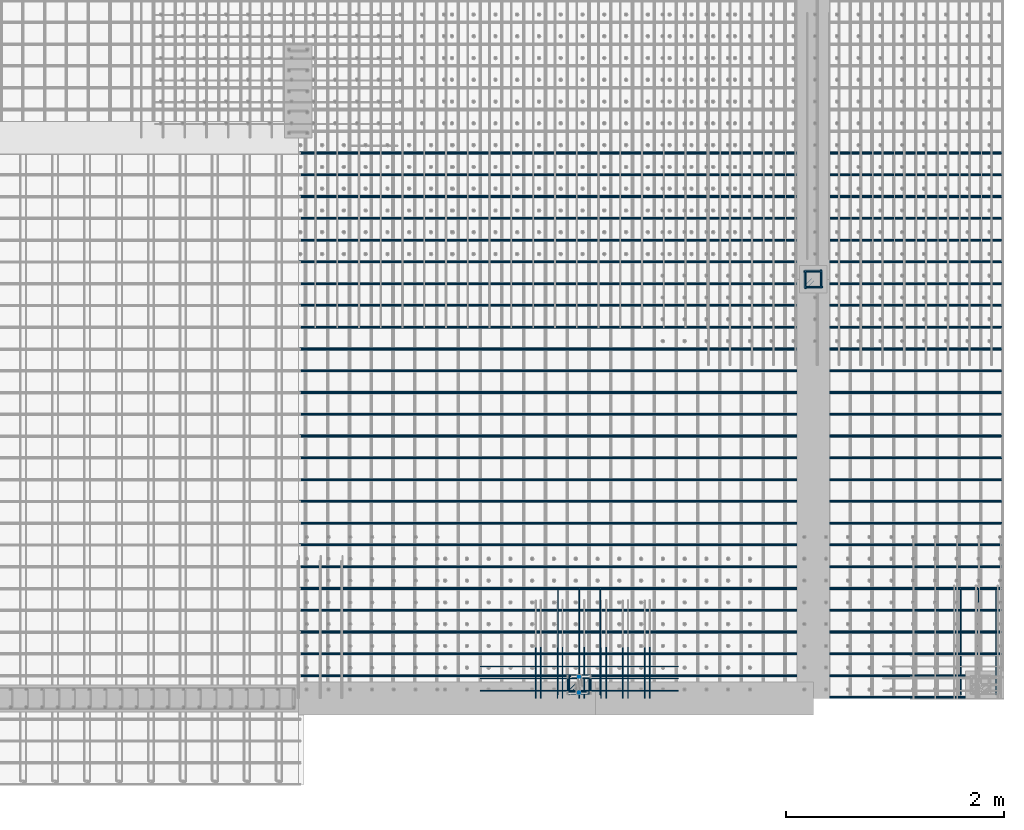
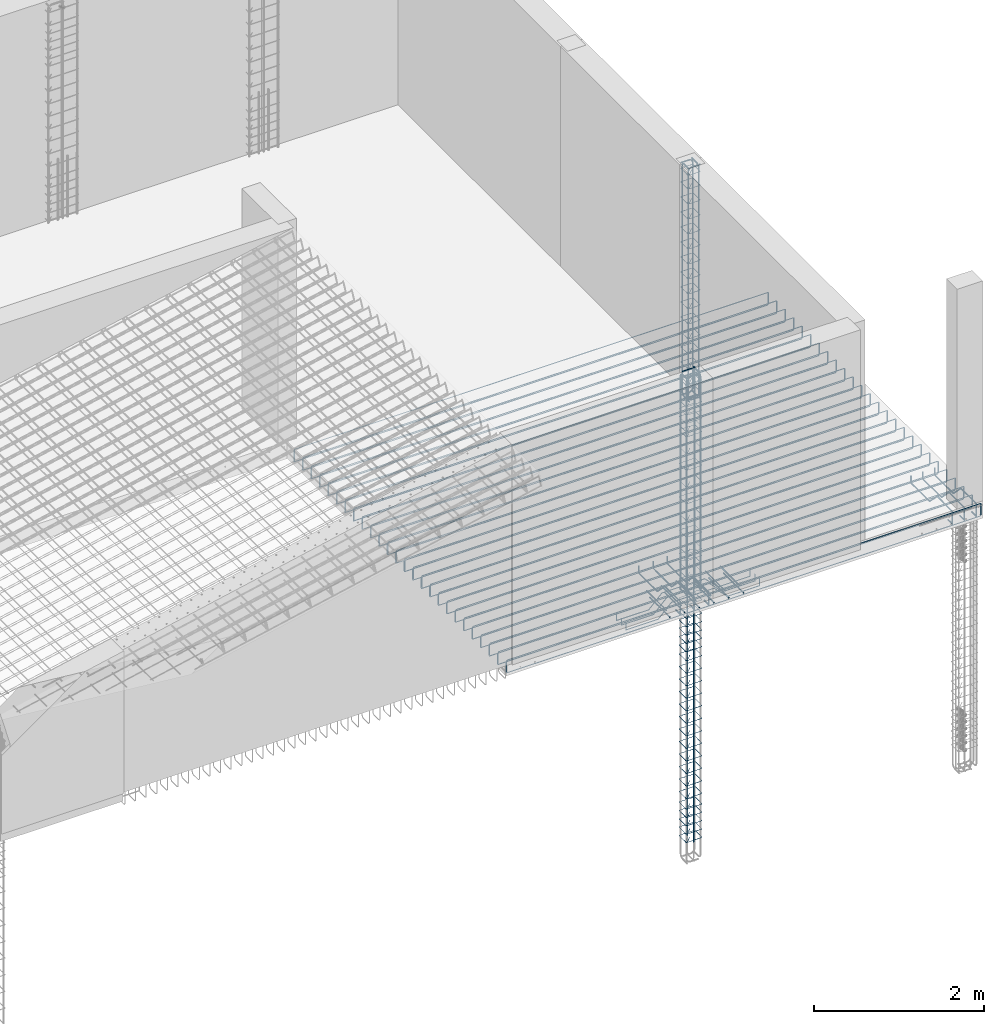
# One storey, part 9 of 17: 11 reinforcing bars.
"""IFC4 building model written with IfcOpenShell, lengths in metres."""

from ifc_helpers import new_model, entity, si_unit, frame, origin_with_axes, place, context, project, spatial, source, transform, mapped, element, save


model = new_model("IFC4")

# Units and contexts
model_context = context("Model", 3, precision=1e-05, world=origin_with_axes())
ifc_project = project(units=[si_unit("LENGTHUNIT", "METRE"), si_unit("AREAUNIT", "SQUARE_METRE"), si_unit("VOLUMEUNIT", "CUBIC_METRE"), si_unit("MASSUNIT", "GRAM", prefix="KILO"), si_unit("TIMEUNIT", "SECOND"), si_unit("PLANEANGLEUNIT", "RADIAN"), si_unit("SOLIDANGLEUNIT", "STERADIAN"), si_unit("THERMODYNAMICTEMPERATUREUNIT", "DEGREE_CELSIUS")], contexts=[model_context])

# Site, building, storey
placement_1 = place(None, origin_with_axes())
site = spatial("IfcSite", under=ifc_project, at=placement_1, Name="Italia", CompositionType="ELEMENT")
building = spatial("IfcBuilding", under=site, at=placement_1, Name="Abitazione", CompositionType="ELEMENT")
storey_placement = place(None, frame((0.0, 0.0, 3.569999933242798), z_axis=(0.0, 0.0, 1.0), x_axis=(1.0, 0.0, 0.0)))
storey = spatial("IfcBuildingStorey", under=building, at=storey_placement, Name="Storey 1", CompositionType="ELEMENT", Elevation=3.569999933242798)

# Reinforcing bars
shared_shape_1 = source(origin_with_axes(), model_context, "Body", "AdvancedSweptSolid", [
    entity("IfcSweptDiskSolid", entity("IfcIndexedPolyCurve", entity("IfcCartesianPointList3D", [[10.71, 0.988, 0.0], [10.71, 0.988, 4.45]]), [entity("IfcLineIndex", [1, 2])], False), 0.008),
])
placement_2 = place(placement_1, origin_with_axes())
reinforcing_bar_1_placement = place(placement_2, origin_with_axes())
element("IfcReinforcingBar", 1, at=reinforcing_bar_1_placement, inside=storey, BarLength=4.45, CrossSectionArea=0.00020106, NominalDiameter=0.016, context=model_context, shape_type="MappedRepresentation", body=[
    mapped(shared_shape_1, transform((-1.04904e-05, -0.146, 0.0), x_axis=(1.0, 0.0, 0.0), y_axis=(0.0, 1.0, 0.0), z_axis=(0.0, 0.0, 1.0), scale=1.0)),
    mapped(shared_shape_1, transform((0.0, 0.0, 0.0), x_axis=(1.0, 0.0, 0.0), y_axis=(0.0, 1.0, 0.0), z_axis=(0.0, 0.0, 1.0), scale=1.0)),
])
shared_shape_2 = source(origin_with_axes(), model_context, "Body", "AdvancedSweptSolid", [
    entity("IfcSweptDiskSolid", entity("IfcIndexedPolyCurve", entity("IfcCartesianPointList3D", [[10.615, 0.845, 3.57], [10.615, 0.845, 6.64], [10.6192, 0.845, 6.66105], [10.6311, 0.845, 6.67889], [10.649, 0.845, 6.69081], [10.67, 0.845, 6.695], [10.777, 0.845, 6.695]]), [entity("IfcLineIndex", [1, 2]), entity("IfcLineIndex", [2, 3]), entity("IfcLineIndex", [3, 4]), entity("IfcLineIndex", [4, 5]), entity("IfcLineIndex", [5, 6]), entity("IfcLineIndex", [6, 7])], False), 0.011),
])
reinforcing_bar_2_placement = place(placement_2, origin_with_axes())
element("IfcReinforcingBar", 2, at=reinforcing_bar_2_placement, inside=storey, BarLength=3.26284, CrossSectionArea=0.00038013, NominalDiameter=0.022, context=model_context, shape_type="MappedRepresentation", body=[
    mapped(shared_shape_2, transform((9.77, 11.6, 0.0), x_axis=(0.0, -1.0, 0.0), y_axis=(1.0, 0.0, 0.0), z_axis=(0.0, 0.0, 1.0), scale=1.0)),
    mapped(shared_shape_2, transform((0.0, 0.0, 0.0), x_axis=(1.0, 0.0, 0.0), y_axis=(0.0, 1.0, 0.0), z_axis=(0.0, 0.0, 1.0), scale=1.0)),
    mapped(shared_shape_2, transform((11.65, -9.77, 0.0), x_axis=(0.0, 1.0, 0.0), y_axis=(-1.0, 0.0, 0.0), z_axis=(0.0, 0.0, 1.0), scale=1.0)),
    mapped(shared_shape_2, transform((21.42, 1.83, 0.0), x_axis=(-1.0, 0.0, 0.0), y_axis=(0.0, -1.0, 0.0), z_axis=(0.0, 0.0, 1.0), scale=1.0)),
])
shared_shape_3 = source(origin_with_axes(), model_context, "Body", "AdvancedSweptSolid", [
    entity("IfcSweptDiskSolid", entity("IfcIndexedPolyCurve", entity("IfcCartesianPointList3D", [[10.6912, 0.901711, 0.041], [10.6234, 0.833929, 0.0402633], [10.6164, 0.831, 0.0402045], [10.611, 0.831, 0.0401633], [10.6072, 0.831761, 0.0401334], [10.6039, 0.833929, 0.0401034], [10.6018, 0.837173, 0.0400734], [10.601, 0.841, 0.0400434], [10.601, 0.989, 0.038906], [10.6018, 0.992827, 0.038876], [10.6039, 0.996071, 0.0388461], [10.6072, 0.998239, 0.0388161], [10.611, 0.999, 0.0387861], [10.809, 0.999, 0.0372645], [10.8128, 0.998239, 0.0372345], [10.8161, 0.996071, 0.0372045], [10.8182, 0.992827, 0.0371745], [10.819, 0.989, 0.0371445], [10.819, 0.841, 0.0360072], [10.8182, 0.837173, 0.0359772], [10.8161, 0.833929, 0.0359472], [10.8128, 0.831761, 0.0359172], [10.809, 0.831, 0.0358872], [10.611, 0.831, 0.0343656], [10.6072, 0.831761, 0.0343356], [10.6039, 0.833929, 0.0343057], [10.6018, 0.837173, 0.0342757], [10.601, 0.841, 0.0342457], [10.601, 0.846358, 0.0342045], [10.6039, 0.853429, 0.0341457], [10.6717, 0.921211, 0.033409]]), [entity("IfcLineIndex", [1, 2]), entity("IfcLineIndex", [2, 3]), entity("IfcLineIndex", [3, 4]), entity("IfcLineIndex", [4, 5]), entity("IfcLineIndex", [5, 6]), entity("IfcLineIndex", [6, 7]), entity("IfcLineIndex", [7, 8]), entity("IfcLineIndex", [8, 9]), entity("IfcLineIndex", [9, 10]), entity("IfcLineIndex", [10, 11]), entity("IfcLineIndex", [11, 12]), entity("IfcLineIndex", [12, 13]), entity("IfcLineIndex", [13, 14]), entity("IfcLineIndex", [14, 15]), entity("IfcLineIndex", [15, 16]), entity("IfcLineIndex", [16, 17]), entity("IfcLineIndex", [17, 18]), entity("IfcLineIndex", [18, 19]), entity("IfcLineIndex", [19, 20]), entity("IfcLineIndex", [20, 21]), entity("IfcLineIndex", [21, 22]), entity("IfcLineIndex", [22, 23]), entity("IfcLineIndex", [23, 24]), entity("IfcLineIndex", [24, 25]), entity("IfcLineIndex", [25, 26]), entity("IfcLineIndex", [26, 27]), entity("IfcLineIndex", [27, 28]), entity("IfcLineIndex", [28, 29]), entity("IfcLineIndex", [29, 30]), entity("IfcLineIndex", [30, 31])], False), 0.003),
])
reinforcing_bar_3_placement = place(placement_2, origin_with_axes())
element("IfcReinforcingBar", 3, at=reinforcing_bar_3_placement, inside=storey, BarLength=0.987803, CrossSectionArea=2.8274e-05, NominalDiameter=0.006, context=model_context, shape_type="MappedRepresentation", body=[
    mapped(shared_shape_3, transform((0.0, 0.0, 0.632119), x_axis=(1.0, 0.0, -1.21983e-05), y_axis=(0.0, 1.0, 1.29131e-05), z_axis=(1.21983e-05, -1.29131e-05, 1.0), scale=1.0)),
    mapped(shared_shape_3, transform((0.0, 0.0, 1.71212), x_axis=(1.0, 0.0, -1.21983e-05), y_axis=(0.0, 1.0, 1.29131e-05), z_axis=(1.21983e-05, -1.29131e-05, 1.0), scale=1.0)),
    mapped(shared_shape_3, transform((0.0, 0.0, 1.89212), x_axis=(1.0, 0.0, -1.21983e-05), y_axis=(0.0, 1.0, 1.29131e-05), z_axis=(1.21983e-05, -1.29131e-05, 1.0), scale=1.0)),
    mapped(shared_shape_3, transform((0.0, 0.0, 1.17212), x_axis=(1.0, 0.0, -1.21983e-05), y_axis=(0.0, 1.0, 1.29131e-05), z_axis=(1.21983e-05, -1.29131e-05, 1.0), scale=1.0)),
    mapped(shared_shape_3, transform((0.0, 0.0, 0.480119), x_axis=(1.0, 0.0, -1.21983e-05), y_axis=(0.0, 1.0, 1.29131e-05), z_axis=(1.21983e-05, -1.29131e-05, 1.0), scale=1.0)),
    mapped(shared_shape_3, transform((0.0, 0.0, 1.53212), x_axis=(1.0, 0.0, -1.21983e-05), y_axis=(0.0, 1.0, 1.29131e-05), z_axis=(1.21983e-05, -1.29131e-05, 1.0), scale=1.0)),
    mapped(shared_shape_3, transform((0.0, 0.0, 0.812119), x_axis=(1.0, 0.0, -1.21983e-05), y_axis=(0.0, 1.0, 1.29131e-05), z_axis=(1.21983e-05, -1.29131e-05, 1.0), scale=1.0)),
    mapped(shared_shape_3, transform((0.0, 0.0, 0.992119), x_axis=(1.0, 0.0, -1.21983e-05), y_axis=(0.0, 1.0, 1.29131e-05), z_axis=(1.21983e-05, -1.29131e-05, 1.0), scale=1.0)),
    mapped(shared_shape_3, transform((0.0, 0.0, 0.120009), x_axis=(1.0, 0.0, 0.0), y_axis=(0.0, 1.0, 0.0), z_axis=(0.0, 0.0, 1.0), scale=1.0)),
    mapped(shared_shape_3, transform((0.0, 0.0, 1.35212), x_axis=(1.0, 0.0, -1.21983e-05), y_axis=(0.0, 1.0, 1.29131e-05), z_axis=(1.21983e-05, -1.29131e-05, 1.0), scale=1.0)),
    mapped(shared_shape_3, transform((0.0, 0.0, 3.68984), x_axis=(1.0, 0.0, 1.65697e-05), y_axis=(0.0, 1.0, -1.58555e-05), z_axis=(-1.65697e-05, 1.58555e-05, 1.0), scale=1.0)),
    mapped(shared_shape_3, transform((0.0, 0.0, 2.61184), x_axis=(1.0, 0.0, 1.65697e-05), y_axis=(0.0, 1.0, -1.58555e-05), z_axis=(-1.65697e-05, 1.58555e-05, 1.0), scale=1.0)),
    mapped(shared_shape_3, transform((0.0, 0.0, 2.43184), x_axis=(1.0, 0.0, 1.65697e-05), y_axis=(0.0, 1.0, -1.58555e-05), z_axis=(-1.65697e-05, 1.58555e-05, 1.0), scale=1.0)),
    mapped(shared_shape_3, transform((0.0, 0.0, 2.85984), x_axis=(1.0, 0.0, 1.65697e-05), y_axis=(0.0, 1.0, -1.58555e-05), z_axis=(-1.65697e-05, 1.58555e-05, 1.0), scale=1.0)),
    mapped(shared_shape_3, transform((0.0, 0.0, 3.56984), x_axis=(1.0, 0.0, 1.65697e-05), y_axis=(0.0, 1.0, -1.58555e-05), z_axis=(-1.65697e-05, 1.58555e-05, 1.0), scale=1.0)),
    mapped(shared_shape_3, transform((0.0, 0.0, 3.21984), x_axis=(1.0, 0.0, 1.65697e-05), y_axis=(0.0, 1.0, -1.58555e-05), z_axis=(-1.65697e-05, 1.58555e-05, 1.0), scale=1.0)),
    mapped(shared_shape_3, transform((0.0, 0.0, 2.25184), x_axis=(1.0, 0.0, 1.65697e-05), y_axis=(0.0, 1.0, -1.58555e-05), z_axis=(-1.65697e-05, 1.58555e-05, 1.0), scale=1.0)),
    mapped(shared_shape_3, transform((0.0, 0.0, 2.73984), x_axis=(1.0, 0.0, 1.65697e-05), y_axis=(0.0, 1.0, -1.58555e-05), z_axis=(-1.65697e-05, 1.58555e-05, 1.0), scale=1.0)),
    mapped(shared_shape_3, transform((0.0, 0.0, 3.41284), x_axis=(1.0, 0.0, 1.65697e-05), y_axis=(0.0, 1.0, -1.58555e-05), z_axis=(-1.65697e-05, 1.58555e-05, 1.0), scale=1.0)),
    mapped(shared_shape_3, transform((0.0, 0.0, 2.97984), x_axis=(1.0, 0.0, 1.65697e-05), y_axis=(0.0, 1.0, -1.58555e-05), z_axis=(-1.65697e-05, 1.58555e-05, 1.0), scale=1.0)),
    mapped(shared_shape_3, transform((0.0, 0.0, 2.07184), x_axis=(1.0, 0.0, 1.65697e-05), y_axis=(0.0, 1.0, -1.58555e-05), z_axis=(-1.65697e-05, 1.58555e-05, 1.0), scale=1.0)),
    mapped(shared_shape_3, transform((0.0, 0.0, 3.92984), x_axis=(1.0, 0.0, 1.65697e-05), y_axis=(0.0, 1.0, -1.58555e-05), z_axis=(-1.65697e-05, 1.58555e-05, 1.0), scale=1.0)),
    mapped(shared_shape_3, transform((0.0, 0.0, 3.80984), x_axis=(1.0, 0.0, 1.65697e-05), y_axis=(0.0, 1.0, -1.58555e-05), z_axis=(-1.65697e-05, 1.58555e-05, 1.0), scale=1.0)),
    mapped(shared_shape_3, transform((0.0, 0.0, 3.09984), x_axis=(1.0, 0.0, 1.65697e-05), y_axis=(0.0, 1.0, -1.58555e-05), z_axis=(-1.65697e-05, 1.58555e-05, 1.0), scale=1.0)),
    mapped(shared_shape_3, transform((0.0, 0.0, 0.359973), x_axis=(1.0, 0.0, 0.0), y_axis=(0.0, 1.0, 0.0), z_axis=(0.0, 0.0, 1.0), scale=1.0)),
    mapped(shared_shape_3, transform((0.0, 0.0, 0.239973), x_axis=(1.0, 0.0, 0.0), y_axis=(0.0, 1.0, 0.0), z_axis=(0.0, 0.0, 1.0), scale=1.0)),
    mapped(shared_shape_3, transform((0.0, 0.0, 0.0), x_axis=(1.0, 0.0, 0.0), y_axis=(0.0, 1.0, 0.0), z_axis=(0.0, 0.0, 1.0), scale=1.0)),
    mapped(shared_shape_3, transform((0.0, 0.0, 4.04923), x_axis=(1.0, 0.0, 7.90976e-05), y_axis=(0.0, 1.0, -8.54169e-05), z_axis=(-7.90975e-05, 8.5417e-05, 1.0), scale=1.0)),
    mapped(shared_shape_3, transform((0.0, 0.0, 4.14623), x_axis=(1.0, 0.0, 7.90976e-05), y_axis=(0.0, 1.0, -8.54169e-05), z_axis=(-7.90975e-05, 8.5417e-05, 1.0), scale=1.0)),
    mapped(shared_shape_3, transform((0.0, 0.0, 4.38623), x_axis=(1.0, 0.0, 7.90976e-05), y_axis=(0.0, 1.0, -8.54169e-05), z_axis=(-7.90975e-05, 8.5417e-05, 1.0), scale=1.0)),
    mapped(shared_shape_3, transform((0.0, 0.0, 4.62623), x_axis=(1.0, 0.0, 7.90976e-05), y_axis=(0.0, 1.0, -8.54169e-05), z_axis=(-7.90975e-05, 8.5417e-05, 1.0), scale=1.0)),
    mapped(shared_shape_3, transform((0.0, 0.0, 4.86623), x_axis=(1.0, 0.0, 7.90976e-05), y_axis=(0.0, 1.0, -8.54169e-05), z_axis=(-7.90975e-05, 8.5417e-05, 1.0), scale=1.0)),
    mapped(shared_shape_3, transform((0.0, 0.0, 5.10623), x_axis=(1.0, 0.0, 7.90976e-05), y_axis=(0.0, 1.0, -8.54169e-05), z_axis=(-7.90975e-05, 8.5417e-05, 1.0), scale=1.0)),
    mapped(shared_shape_3, transform((0.0, 0.0, 5.34623), x_axis=(1.0, 0.0, 7.90976e-05), y_axis=(0.0, 1.0, -8.54169e-05), z_axis=(-7.90975e-05, 8.5417e-05, 1.0), scale=1.0)),
    mapped(shared_shape_3, transform((0.0, 0.0, 5.58623), x_axis=(1.0, 0.0, 7.90976e-05), y_axis=(0.0, 1.0, -8.54169e-05), z_axis=(-7.90975e-05, 8.5417e-05, 1.0), scale=1.0)),
    mapped(shared_shape_3, transform((0.0, 0.0, 5.82623), x_axis=(1.0, 0.0, 7.90976e-05), y_axis=(0.0, 1.0, -8.54169e-05), z_axis=(-7.90975e-05, 8.5417e-05, 1.0), scale=1.0)),
    mapped(shared_shape_3, transform((0.0, 0.0, 5.89923), x_axis=(1.0, 0.0, 7.90976e-05), y_axis=(0.0, 1.0, -8.54169e-05), z_axis=(-7.90975e-05, 8.5417e-05, 1.0), scale=1.0)),
    mapped(shared_shape_3, transform((0.0, 0.0, 6.01923), x_axis=(1.0, 0.0, 7.90976e-05), y_axis=(0.0, 1.0, -8.54169e-05), z_axis=(-7.90975e-05, 8.5417e-05, 1.0), scale=1.0)),
    mapped(shared_shape_3, transform((0.0, 0.0, 6.13923), x_axis=(1.0, 0.0, 7.90976e-05), y_axis=(0.0, 1.0, -8.54169e-05), z_axis=(-7.90975e-05, 8.5417e-05, 1.0), scale=1.0)),
    mapped(shared_shape_3, transform((0.0, 0.0, 6.25923), x_axis=(1.0, 0.0, 7.90976e-05), y_axis=(0.0, 1.0, -8.54169e-05), z_axis=(-7.90975e-05, 8.5417e-05, 1.0), scale=1.0)),
    mapped(shared_shape_3, transform((0.0, 0.0, 6.37923), x_axis=(1.0, 0.0, 7.90976e-05), y_axis=(0.0, 1.0, -8.54169e-05), z_axis=(-7.90975e-05, 8.5417e-05, 1.0), scale=1.0)),
    mapped(shared_shape_3, transform((0.0, 0.0, 6.56623), x_axis=(1.0, 0.0, 7.90976e-05), y_axis=(0.0, 1.0, -8.54169e-05), z_axis=(-7.90975e-05, 8.5417e-05, 1.0), scale=1.0)),
])
shared_shape_4 = source(origin_with_axes(), model_context, "Body", "AdvancedSweptSolid", [
    entity("IfcSweptDiskSolid", entity("IfcIndexedPolyCurve", entity("IfcCartesianPointList3D", [[12.951, 4.569, 3.355], [12.839, 4.569, 3.355], [12.8199, 4.569, 3.35881], [12.8036, 4.569, 3.36964], [12.7928, 4.569, 3.38587], [12.789, 4.569, 3.405], [12.789, 4.569, 4.3875]]), [entity("IfcLineIndex", [1, 2]), entity("IfcLineIndex", [2, 3]), entity("IfcLineIndex", [3, 4]), entity("IfcLineIndex", [4, 5]), entity("IfcLineIndex", [5, 6]), entity("IfcLineIndex", [6, 7])], False), 0.01),
])
reinforcing_bar_4_placement = place(placement_2, origin_with_axes())
element("IfcReinforcingBar", 4, at=reinforcing_bar_4_placement, inside=storey, BarLength=1.17254, CrossSectionArea=0.00031416, NominalDiameter=0.02, context=model_context, shape_type="MappedRepresentation", body=[
    mapped(shared_shape_4, transform((8.22, 17.5, 0.0), x_axis=(0.0, -1.0, 0.0), y_axis=(1.0, 0.0, 0.0), z_axis=(0.0, 0.0, 1.0), scale=1.0)),
    mapped(shared_shape_4, transform((0.0, 0.0, 0.0), x_axis=(1.0, 0.0, 0.0), y_axis=(0.0, 1.0, 0.0), z_axis=(0.0, 0.0, 1.0), scale=1.0)),
    mapped(shared_shape_4, transform((17.5, -8.22, 0.0), x_axis=(0.0, 1.0, 0.0), y_axis=(-1.0, 0.0, 0.0), z_axis=(0.0, 0.0, 1.0), scale=1.0)),
    mapped(shared_shape_4, transform((25.72, 9.28, 0.0), x_axis=(-1.0, 0.0, 0.0), y_axis=(0.0, -1.0, 0.0), z_axis=(0.0, 0.0, 1.0), scale=1.0)),
])
shared_shape_5 = source(origin_with_axes(), model_context, "Body", "AdvancedSweptSolid", [
    entity("IfcSweptDiskSolid", entity("IfcIndexedPolyCurve", entity("IfcCartesianPointList3D", [[12.789, 4.569, 3.57], [12.789, 4.569, 6.645], [12.7928, 4.569, 6.66413], [12.8036, 4.569, 6.68036], [12.8199, 4.569, 6.69119], [12.839, 4.569, 6.695], [12.951, 4.569, 6.695]]), [entity("IfcLineIndex", [1, 2]), entity("IfcLineIndex", [2, 3]), entity("IfcLineIndex", [3, 4]), entity("IfcLineIndex", [4, 5]), entity("IfcLineIndex", [5, 6]), entity("IfcLineIndex", [6, 7])], False), 0.01),
])
reinforcing_bar_5_placement = place(placement_2, origin_with_axes())
element("IfcReinforcingBar", 5, at=reinforcing_bar_5_placement, inside=storey, BarLength=3.26504, CrossSectionArea=0.00031416, NominalDiameter=0.02, context=model_context, shape_type="MappedRepresentation", body=[
    mapped(shared_shape_5, transform((8.22, 17.5, 0.0), x_axis=(0.0, -1.0, 0.0), y_axis=(1.0, 0.0, 0.0), z_axis=(0.0, 0.0, 1.0), scale=1.0)),
    mapped(shared_shape_5, transform((0.0, 0.0, 0.0), x_axis=(1.0, 0.0, 0.0), y_axis=(0.0, 1.0, 0.0), z_axis=(0.0, 0.0, 1.0), scale=1.0)),
    mapped(shared_shape_5, transform((17.5, -8.22, 0.0), x_axis=(0.0, 1.0, 0.0), y_axis=(-1.0, 0.0, 0.0), z_axis=(0.0, 0.0, 1.0), scale=1.0)),
    mapped(shared_shape_5, transform((25.72, 9.28, 0.0), x_axis=(-1.0, 0.0, 0.0), y_axis=(0.0, -1.0, 0.0), z_axis=(0.0, 0.0, 1.0), scale=1.0)),
])
shared_shape_6 = source(origin_with_axes(), model_context, "Body", "AdvancedSweptSolid", [
    entity("IfcSweptDiskSolid", entity("IfcIndexedPolyCurve", entity("IfcCartesianPointList3D", [[12.8667, 4.62571, 3.613], [12.7989, 4.55793, 3.61189], [12.7919, 4.555, 3.6118], [12.785, 4.555, 3.61172], [12.7812, 4.55576, 3.61168], [12.7779, 4.55793, 3.61163], [12.7758, 4.56117, 3.61159], [12.775, 4.565, 3.61154], [12.775, 4.715, 3.60981], [12.7758, 4.71883, 3.60976], [12.7779, 4.72207, 3.60972], [12.7812, 4.72424, 3.60967], [12.785, 4.725, 3.60963], [12.935, 4.725, 3.60789], [12.9388, 4.72424, 3.60785], [12.9421, 4.72207, 3.6078], [12.9442, 4.71883, 3.60776], [12.945, 4.715, 3.60771], [12.945, 4.565, 3.60598], [12.9442, 4.56117, 3.60593], [12.9421, 4.55793, 3.60589], [12.9388, 4.55576, 3.60584], [12.935, 4.555, 3.6058], [12.785, 4.555, 3.60406], [12.7812, 4.55576, 3.60402], [12.7779, 4.55793, 3.60397], [12.7758, 4.56117, 3.60393], [12.775, 4.565, 3.60388], [12.775, 4.57186, 3.6038], [12.7779, 4.57893, 3.60371], [12.8457, 4.64671, 3.60261]]), [entity("IfcLineIndex", [1, 2]), entity("IfcLineIndex", [2, 3]), entity("IfcLineIndex", [3, 4]), entity("IfcLineIndex", [4, 5]), entity("IfcLineIndex", [5, 6]), entity("IfcLineIndex", [6, 7]), entity("IfcLineIndex", [7, 8]), entity("IfcLineIndex", [8, 9]), entity("IfcLineIndex", [9, 10]), entity("IfcLineIndex", [10, 11]), entity("IfcLineIndex", [11, 12]), entity("IfcLineIndex", [12, 13]), entity("IfcLineIndex", [13, 14]), entity("IfcLineIndex", [14, 15]), entity("IfcLineIndex", [15, 16]), entity("IfcLineIndex", [16, 17]), entity("IfcLineIndex", [17, 18]), entity("IfcLineIndex", [18, 19]), entity("IfcLineIndex", [19, 20]), entity("IfcLineIndex", [20, 21]), entity("IfcLineIndex", [21, 22]), entity("IfcLineIndex", [22, 23]), entity("IfcLineIndex", [23, 24]), entity("IfcLineIndex", [24, 25]), entity("IfcLineIndex", [25, 26]), entity("IfcLineIndex", [26, 27]), entity("IfcLineIndex", [27, 28]), entity("IfcLineIndex", [28, 29]), entity("IfcLineIndex", [29, 30]), entity("IfcLineIndex", [30, 31])], False), 0.004),
])
reinforcing_bar_6_placement = place(placement_2, origin_with_axes())
element("IfcReinforcingBar", 6, at=reinforcing_bar_6_placement, inside=storey, BarLength=0.898838, CrossSectionArea=5.0265e-05, NominalDiameter=0.008, context=model_context, shape_type="MappedRepresentation", body=[
    mapped(shared_shape_6, transform((7.72476e-05, -7.39098e-05, 1.93828), x_axis=(1.0, 0.0, 2.16716e-05), y_axis=(0.0, 1.0, -2.16626e-05), z_axis=(-2.16716e-05, 2.16626e-05, 1.0), scale=1.0)),
    mapped(shared_shape_6, transform((7.72476e-05, -7.39098e-05, 1.7229), x_axis=(1.0, 0.0, 2.16716e-05), y_axis=(0.0, 1.0, -2.16626e-05), z_axis=(-2.16716e-05, 2.16626e-05, 1.0), scale=1.0)),
    mapped(shared_shape_6, transform((7.72476e-05, -7.39098e-05, 2.99582), x_axis=(1.0, 0.0, 2.16716e-05), y_axis=(0.0, 1.0, -2.16626e-05), z_axis=(-2.16716e-05, 2.16626e-05, 1.0), scale=1.0)),
    mapped(shared_shape_6, transform((7.72476e-05, -7.39098e-05, 2.58444), x_axis=(1.0, 0.0, 2.16716e-05), y_axis=(0.0, 1.0, -2.16626e-05), z_axis=(-2.16716e-05, 2.16626e-05, 1.0), scale=1.0)),
    mapped(shared_shape_6, transform((7.72476e-05, -7.39098e-05, 2.36905), x_axis=(1.0, 0.0, 2.16716e-05), y_axis=(0.0, 1.0, -2.16626e-05), z_axis=(-2.16716e-05, 2.16626e-05, 1.0), scale=1.0)),
    mapped(shared_shape_6, transform((7.72476e-05, -7.39098e-05, 2.15367), x_axis=(1.0, 0.0, 2.16716e-05), y_axis=(0.0, 1.0, -2.16626e-05), z_axis=(-2.16716e-05, 2.16626e-05, 1.0), scale=1.0)),
    mapped(shared_shape_6, transform((0.0, 0.0, 0.215384), x_axis=(1.0, 0.0, 0.0), y_axis=(0.0, 1.0, 0.0), z_axis=(0.0, 0.0, 1.0), scale=1.0)),
    mapped(shared_shape_6, transform((7.72476e-05, -7.39098e-05, 1.50751), x_axis=(1.0, 0.0, 2.16716e-05), y_axis=(0.0, 1.0, -2.16626e-05), z_axis=(-2.16716e-05, 2.16626e-05, 1.0), scale=1.0)),
    mapped(shared_shape_6, transform((7.72476e-05, -7.39098e-05, 2.79982), x_axis=(1.0, 0.0, 2.16716e-05), y_axis=(0.0, 1.0, -2.16626e-05), z_axis=(-2.16716e-05, 2.16626e-05, 1.0), scale=1.0)),
    mapped(shared_shape_6, transform((7.72476e-05, -7.39098e-05, 0.86136), x_axis=(1.0, 0.0, 2.16716e-05), y_axis=(0.0, 1.0, -2.16626e-05), z_axis=(-2.16716e-05, 2.16626e-05, 1.0), scale=1.0)),
    mapped(shared_shape_6, transform((7.72476e-05, -7.39098e-05, 0.645975), x_axis=(1.0, 0.0, 2.16716e-05), y_axis=(0.0, 1.0, -2.16626e-05), z_axis=(-2.16716e-05, 2.16626e-05, 1.0), scale=1.0)),
    mapped(shared_shape_6, transform((7.72476e-05, -7.39098e-05, 0.430591), x_axis=(1.0, 0.0, 2.16716e-05), y_axis=(0.0, 1.0, -2.16626e-05), z_axis=(-2.16716e-05, 2.16626e-05, 1.0), scale=1.0)),
    mapped(shared_shape_6, transform((0.0, 0.0, 0.0), x_axis=(1.0, 0.0, 0.0), y_axis=(0.0, 1.0, 0.0), z_axis=(0.0, 0.0, 1.0), scale=1.0)),
    mapped(shared_shape_6, transform((7.72476e-05, -7.39098e-05, 1.29213), x_axis=(1.0, 0.0, 2.16716e-05), y_axis=(0.0, 1.0, -2.16626e-05), z_axis=(-2.16716e-05, 2.16626e-05, 1.0), scale=1.0)),
    mapped(shared_shape_6, transform((7.72476e-05, -7.39098e-05, 1.07674), x_axis=(1.0, 0.0, 2.16716e-05), y_axis=(0.0, 1.0, -2.16626e-05), z_axis=(-2.16716e-05, 2.16626e-05, 1.0), scale=1.0)),
])
shared_shape_7 = source(origin_with_axes(), model_context, "Body", "AdvancedSweptSolid", [
    entity("IfcSweptDiskSolid", entity("IfcIndexedPolyCurve", entity("IfcCartesianPointList3D", [[8.142, 0.794, 3.374], [8.142, 0.794, 3.53], [8.14276, 0.794, 3.53383], [8.14493, 0.794, 3.53707], [8.14817, 0.794, 3.53924], [8.152, 0.794, 3.54], [14.576, 0.794, 3.54], [14.5798, 0.794, 3.53924], [14.5831, 0.794, 3.53707], [14.5852, 0.794, 3.53383], [14.586, 0.794, 3.53], [14.586, 0.794, 3.374]]), [entity("IfcLineIndex", [1, 2]), entity("IfcLineIndex", [2, 3]), entity("IfcLineIndex", [3, 4]), entity("IfcLineIndex", [4, 5]), entity("IfcLineIndex", [5, 6]), entity("IfcLineIndex", [6, 7]), entity("IfcLineIndex", [7, 8]), entity("IfcLineIndex", [8, 9]), entity("IfcLineIndex", [9, 10]), entity("IfcLineIndex", [10, 11]), entity("IfcLineIndex", [11, 12])], False), 0.006),
])
reinforcing_bar_7_placement = place(placement_2, origin_with_axes())
element("IfcReinforcingBar", 7, at=reinforcing_bar_7_placement, inside=storey, BarLength=6.76721, CrossSectionArea=0.0001131, NominalDiameter=0.012, context=model_context, shape_type="MappedRepresentation", body=[
    mapped(shared_shape_7, transform((0.0, 3.4, 6.89), x_axis=(1.0, 0.0, 0.0), y_axis=(0.0, -1.0, 0.0), z_axis=(0.0, 0.0, -1.0), scale=1.0)),
    mapped(shared_shape_7, transform((0.0, 3.8, 6.89), x_axis=(1.0, 0.0, 0.0), y_axis=(0.0, -1.0, 0.0), z_axis=(0.0, 0.0, -1.0), scale=1.0)),
    mapped(shared_shape_7, transform((0.0, 3.6, 6.89), x_axis=(1.0, 0.0, 0.0), y_axis=(0.0, -1.0, 0.0), z_axis=(0.0, 0.0, -1.0), scale=1.0)),
    mapped(shared_shape_7, transform((0.0, 4.0, 6.89), x_axis=(1.0, 0.0, 0.0), y_axis=(0.0, -1.0, 0.0), z_axis=(0.0, 0.0, -1.0), scale=1.0)),
    mapped(shared_shape_7, transform((0.0, 3.2, 6.89), x_axis=(1.0, 0.0, 0.0), y_axis=(0.0, -1.0, 0.0), z_axis=(0.0, 0.0, -1.0), scale=1.0)),
    mapped(shared_shape_7, transform((0.0, 3.0, 6.89), x_axis=(1.0, 0.0, 0.0), y_axis=(0.0, -1.0, 0.0), z_axis=(0.0, 0.0, -1.0), scale=1.0)),
    mapped(shared_shape_7, transform((0.0, 2.2, 6.89), x_axis=(1.0, 0.0, 0.0), y_axis=(0.0, -1.0, 0.0), z_axis=(0.0, 0.0, -1.0), scale=1.0)),
    mapped(shared_shape_7, transform((0.0, 2.6, 6.89), x_axis=(1.0, 0.0, 0.0), y_axis=(0.0, -1.0, 0.0), z_axis=(0.0, 0.0, -1.0), scale=1.0)),
    mapped(shared_shape_7, transform((0.0, 2.4, 6.89), x_axis=(1.0, 0.0, 0.0), y_axis=(0.0, -1.0, 0.0), z_axis=(0.0, 0.0, -1.0), scale=1.0)),
    mapped(shared_shape_7, transform((0.0, 2.8, 6.89), x_axis=(1.0, 0.0, 0.0), y_axis=(0.0, -1.0, 0.0), z_axis=(0.0, 0.0, -1.0), scale=1.0)),
    mapped(shared_shape_7, transform((0.0, 2.0, 6.89), x_axis=(1.0, 0.0, 0.0), y_axis=(0.0, -1.0, 0.0), z_axis=(0.0, 0.0, -1.0), scale=1.0)),
    mapped(shared_shape_7, transform((0.0, 1.8, 6.89), x_axis=(1.0, 0.0, 0.0), y_axis=(0.0, -1.0, 0.0), z_axis=(0.0, 0.0, -1.0), scale=1.0)),
    mapped(shared_shape_7, transform((0.0, 6.2, 6.89), x_axis=(1.0, 0.0, 0.0), y_axis=(0.0, -1.0, 0.0), z_axis=(0.0, 0.0, -1.0), scale=1.0)),
    mapped(shared_shape_7, transform((0.0, 6.6, 6.89), x_axis=(1.0, 0.0, 0.0), y_axis=(0.0, -1.0, 0.0), z_axis=(0.0, 0.0, -1.0), scale=1.0)),
    mapped(shared_shape_7, transform((0.0, 6.4, 6.89), x_axis=(1.0, 0.0, 0.0), y_axis=(0.0, -1.0, 0.0), z_axis=(0.0, 0.0, -1.0), scale=1.0)),
    mapped(shared_shape_7, transform((0.0, 1.6, 6.89), x_axis=(1.0, 0.0, 0.0), y_axis=(0.0, -1.0, 0.0), z_axis=(0.0, 0.0, -1.0), scale=1.0)),
    mapped(shared_shape_7, transform((0.0, 6.0, 6.89), x_axis=(1.0, 0.0, 0.0), y_axis=(0.0, -1.0, 0.0), z_axis=(0.0, 0.0, -1.0), scale=1.0)),
    mapped(shared_shape_7, transform((0.0, 5.8, 6.89), x_axis=(1.0, 0.0, 0.0), y_axis=(0.0, -1.0, 0.0), z_axis=(0.0, 0.0, -1.0), scale=1.0)),
    mapped(shared_shape_7, transform((0.0, 5.0, 6.89), x_axis=(1.0, 0.0, 0.0), y_axis=(0.0, -1.0, 0.0), z_axis=(0.0, 0.0, -1.0), scale=1.0)),
    mapped(shared_shape_7, transform((0.0, 5.4, 6.89), x_axis=(1.0, 0.0, 0.0), y_axis=(0.0, -1.0, 0.0), z_axis=(0.0, 0.0, -1.0), scale=1.0)),
    mapped(shared_shape_7, transform((0.0, 5.2, 6.89), x_axis=(1.0, 0.0, 0.0), y_axis=(0.0, -1.0, 0.0), z_axis=(0.0, 0.0, -1.0), scale=1.0)),
    mapped(shared_shape_7, transform((0.0, 5.6, 6.89), x_axis=(1.0, 0.0, 0.0), y_axis=(0.0, -1.0, 0.0), z_axis=(0.0, 0.0, -1.0), scale=1.0)),
    mapped(shared_shape_7, transform((0.0, 4.8, 6.89), x_axis=(1.0, 0.0, 0.0), y_axis=(0.0, -1.0, 0.0), z_axis=(0.0, 0.0, -1.0), scale=1.0)),
    mapped(shared_shape_7, transform((0.0, 4.6, 6.89), x_axis=(1.0, 0.0, 0.0), y_axis=(0.0, -1.0, 0.0), z_axis=(0.0, 0.0, -1.0), scale=1.0)),
    mapped(shared_shape_7, transform((0.0, 2.2, 0.0), x_axis=(1.0, 0.0, 0.0), y_axis=(0.0, 1.0, 0.0), z_axis=(0.0, 0.0, 1.0), scale=1.0)),
    mapped(shared_shape_7, transform((0.0, 4.2, 6.89), x_axis=(1.0, 0.0, 0.0), y_axis=(0.0, -1.0, 0.0), z_axis=(0.0, 0.0, -1.0), scale=1.0)),
    mapped(shared_shape_7, transform((0.0, 2.4, 0.0), x_axis=(1.0, 0.0, 0.0), y_axis=(0.0, 1.0, 0.0), z_axis=(0.0, 0.0, 1.0), scale=1.0)),
    mapped(shared_shape_7, transform((0.0, 4.4, 6.89), x_axis=(1.0, 0.0, 0.0), y_axis=(0.0, -1.0, 0.0), z_axis=(0.0, 0.0, -1.0), scale=1.0)),
    mapped(shared_shape_7, transform((0.0, 2.0, 0.0), x_axis=(1.0, 0.0, 0.0), y_axis=(0.0, 1.0, 0.0), z_axis=(0.0, 0.0, 1.0), scale=1.0)),
    mapped(shared_shape_7, transform((0.0, 1.8, 0.0), x_axis=(1.0, 0.0, 0.0), y_axis=(0.0, 1.0, 0.0), z_axis=(0.0, 0.0, 1.0), scale=1.0)),
    mapped(shared_shape_7, transform((0.0, 1.0, 0.0), x_axis=(1.0, 0.0, 0.0), y_axis=(0.0, 1.0, 0.0), z_axis=(0.0, 0.0, 1.0), scale=1.0)),
    mapped(shared_shape_7, transform((0.0, 1.4, 0.0), x_axis=(1.0, 0.0, 0.0), y_axis=(0.0, 1.0, 0.0), z_axis=(0.0, 0.0, 1.0), scale=1.0)),
    mapped(shared_shape_7, transform((0.0, 1.2, 0.0), x_axis=(1.0, 0.0, 0.0), y_axis=(0.0, 1.0, 0.0), z_axis=(0.0, 0.0, 1.0), scale=1.0)),
    mapped(shared_shape_7, transform((0.0, 1.6, 0.0), x_axis=(1.0, 0.0, 0.0), y_axis=(0.0, 1.0, 0.0), z_axis=(0.0, 0.0, 1.0), scale=1.0)),
    mapped(shared_shape_7, transform((0.0, 0.8, 0.0), x_axis=(1.0, 0.0, 0.0), y_axis=(0.0, 1.0, 0.0), z_axis=(0.0, 0.0, 1.0), scale=1.0)),
    mapped(shared_shape_7, transform((0.0, 0.6, 0.0), x_axis=(1.0, 0.0, 0.0), y_axis=(0.0, 1.0, 0.0), z_axis=(0.0, 0.0, 1.0), scale=1.0)),
    mapped(shared_shape_7, transform((0.0, 5.0, 0.0), x_axis=(1.0, 0.0, 0.0), y_axis=(0.0, 1.0, 0.0), z_axis=(0.0, 0.0, 1.0), scale=1.0)),
    mapped(shared_shape_7, transform((0.0, 0.2, 0.0), x_axis=(1.0, 0.0, 0.0), y_axis=(0.0, 1.0, 0.0), z_axis=(0.0, 0.0, 1.0), scale=1.0)),
    mapped(shared_shape_7, transform((0.0, 0.0, 0.0), x_axis=(1.0, 0.0, 0.0), y_axis=(0.0, 1.0, 0.0), z_axis=(0.0, 0.0, 1.0), scale=1.0)),
    mapped(shared_shape_7, transform((0.0, 0.4, 0.0), x_axis=(1.0, 0.0, 0.0), y_axis=(0.0, 1.0, 0.0), z_axis=(0.0, 0.0, 1.0), scale=1.0)),
    mapped(shared_shape_7, transform((0.0, 4.8, 0.0), x_axis=(1.0, 0.0, 0.0), y_axis=(0.0, 1.0, 0.0), z_axis=(0.0, 0.0, 1.0), scale=1.0)),
    mapped(shared_shape_7, transform((0.0, 4.6, 0.0), x_axis=(1.0, 0.0, 0.0), y_axis=(0.0, 1.0, 0.0), z_axis=(0.0, 0.0, 1.0), scale=1.0)),
    mapped(shared_shape_7, transform((0.0, 3.8, 0.0), x_axis=(1.0, 0.0, 0.0), y_axis=(0.0, 1.0, 0.0), z_axis=(0.0, 0.0, 1.0), scale=1.0)),
    mapped(shared_shape_7, transform((0.0, 4.2, 0.0), x_axis=(1.0, 0.0, 0.0), y_axis=(0.0, 1.0, 0.0), z_axis=(0.0, 0.0, 1.0), scale=1.0)),
    mapped(shared_shape_7, transform((0.0, 4.0, 0.0), x_axis=(1.0, 0.0, 0.0), y_axis=(0.0, 1.0, 0.0), z_axis=(0.0, 0.0, 1.0), scale=1.0)),
    mapped(shared_shape_7, transform((0.0, 4.4, 0.0), x_axis=(1.0, 0.0, 0.0), y_axis=(0.0, 1.0, 0.0), z_axis=(0.0, 0.0, 1.0), scale=1.0)),
    mapped(shared_shape_7, transform((0.0, 3.6, 0.0), x_axis=(1.0, 0.0, 0.0), y_axis=(0.0, 1.0, 0.0), z_axis=(0.0, 0.0, 1.0), scale=1.0)),
    mapped(shared_shape_7, transform((0.0, 3.4, 0.0), x_axis=(1.0, 0.0, 0.0), y_axis=(0.0, 1.0, 0.0), z_axis=(0.0, 0.0, 1.0), scale=1.0)),
    mapped(shared_shape_7, transform((0.0, 2.6, 0.0), x_axis=(1.0, 0.0, 0.0), y_axis=(0.0, 1.0, 0.0), z_axis=(0.0, 0.0, 1.0), scale=1.0)),
    mapped(shared_shape_7, transform((0.0, 3.0, 0.0), x_axis=(1.0, 0.0, 0.0), y_axis=(0.0, 1.0, 0.0), z_axis=(0.0, 0.0, 1.0), scale=1.0)),
    mapped(shared_shape_7, transform((0.0, 2.8, 0.0), x_axis=(1.0, 0.0, 0.0), y_axis=(0.0, 1.0, 0.0), z_axis=(0.0, 0.0, 1.0), scale=1.0)),
    mapped(shared_shape_7, transform((0.0, 3.2, 0.0), x_axis=(1.0, 0.0, 0.0), y_axis=(0.0, 1.0, 0.0), z_axis=(0.0, 0.0, 1.0), scale=1.0)),
])
shared_shape_8 = source(origin_with_axes(), model_context, "Body", "AdvancedSweptSolid", [
    entity("IfcSweptDiskSolid", entity("IfcIndexedPolyCurve", entity("IfcCartesianPointList3D", [[10.3112, 0.79, 3.5], [10.3112, 1.25734, 3.5]]), [entity("IfcLineIndex", [1, 2])], False), 0.006),
])
reinforcing_bar_8_placement = place(placement_2, origin_with_axes())
element("IfcReinforcingBar", 8, at=reinforcing_bar_8_placement, inside=storey, BarLength=0.467344, CrossSectionArea=0.0001131, NominalDiameter=0.012, context=model_context, shape_type="MappedRepresentation", body=[
    mapped(shared_shape_8, transform((0.4, 0.0, 0.0), x_axis=(1.0, 0.0, 0.0), y_axis=(0.0, 1.0, 0.0), z_axis=(0.0, 0.0, 1.0), scale=1.0)),
    mapped(shared_shape_8, transform((0.2, 0.0, 0.0), x_axis=(1.0, 0.0, 0.0), y_axis=(0.0, 1.0, 0.0), z_axis=(0.0, 0.0, 1.0), scale=1.0)),
    mapped(shared_shape_8, transform((0.0, 0.0, 0.0), x_axis=(1.0, 0.0, 0.0), y_axis=(0.0, 1.0, 0.0), z_axis=(0.0, 0.0, 1.0), scale=1.0)),
    mapped(shared_shape_8, transform((0.999999, 0.0, 0.0), x_axis=(1.0, 0.0, 0.0), y_axis=(0.0, 1.0, 0.0), z_axis=(0.0, 0.0, 1.0), scale=1.0)),
    mapped(shared_shape_8, transform((0.799999, 0.0, 0.0), x_axis=(1.0, 0.0, 0.0), y_axis=(0.0, 1.0, 0.0), z_axis=(0.0, 0.0, 1.0), scale=1.0)),
    mapped(shared_shape_8, transform((0.599999, 0.0, 0.0), x_axis=(1.0, 0.0, 0.0), y_axis=(0.0, 1.0, 0.0), z_axis=(0.0, 0.0, 1.0), scale=1.0)),
])
shared_shape_9 = source(origin_with_axes(), model_context, "Body", "AdvancedSweptSolid", [
    entity("IfcSweptDiskSolid", entity("IfcIndexedPolyCurve", entity("IfcCartesianPointList3D", [[10.3575, 0.79, 3.386], [10.3575, 1.26128, 3.386]]), [entity("IfcLineIndex", [1, 2])], False), 0.006),
])
reinforcing_bar_9_placement = place(placement_2, origin_with_axes())
element("IfcReinforcingBar", 9, at=reinforcing_bar_9_placement, inside=storey, BarLength=0.471284, CrossSectionArea=0.0001131, NominalDiameter=0.012, context=model_context, shape_type="MappedRepresentation", body=[
    mapped(shared_shape_9, transform((0.4, 0.0, 0.0), x_axis=(1.0, 0.0, 0.0), y_axis=(0.0, 1.0, 0.0), z_axis=(0.0, 0.0, 1.0), scale=1.0)),
    mapped(shared_shape_9, transform((0.2, 0.0, 0.0), x_axis=(1.0, 0.0, 0.0), y_axis=(0.0, 1.0, 0.0), z_axis=(0.0, 0.0, 1.0), scale=1.0)),
    mapped(shared_shape_9, transform((0.0, 0.0, 0.0), x_axis=(1.0, 0.0, 0.0), y_axis=(0.0, 1.0, 0.0), z_axis=(0.0, 0.0, 1.0), scale=1.0)),
    mapped(shared_shape_9, transform((0.999999, 0.0, 0.0), x_axis=(1.0, 0.0, 0.0), y_axis=(0.0, 1.0, 0.0), z_axis=(0.0, 0.0, 1.0), scale=1.0)),
    mapped(shared_shape_9, transform((0.799999, 0.0, 0.0), x_axis=(1.0, 0.0, 0.0), y_axis=(0.0, 1.0, 0.0), z_axis=(0.0, 0.0, 1.0), scale=1.0)),
    mapped(shared_shape_9, transform((0.599999, 0.0, 0.0), x_axis=(1.0, 0.0, 0.0), y_axis=(0.0, 1.0, 0.0), z_axis=(0.0, 0.0, 1.0), scale=1.0)),
])
shared_shape_10 = source(origin_with_axes(), model_context, "Body", "AdvancedSweptSolid", [
    entity("IfcSweptDiskSolid", entity("IfcIndexedPolyCurve", entity("IfcCartesianPointList3D", [[11.617, 0.861, 3.455], [11.617, 0.861, 3.355], [11.617, 0.861, 3.355], [11.18, 0.861, 3.355], [11.0, 0.861, 3.535], [10.42, 0.861, 3.535], [10.24, 0.861, 3.355], [9.80295, 0.861, 3.355], [9.80295, 0.861, 3.355], [9.80295, 0.861, 3.455]]), [entity("IfcLineIndex", [1, 2]), entity("IfcLineIndex", [2, 3]), entity("IfcLineIndex", [3, 4]), entity("IfcLineIndex", [4, 5]), entity("IfcLineIndex", [5, 6]), entity("IfcLineIndex", [6, 7]), entity("IfcLineIndex", [7, 8]), entity("IfcLineIndex", [8, 9]), entity("IfcLineIndex", [9, 10])], False), 0.006),
])
reinforcing_bar_10_placement = place(placement_2, origin_with_axes())
element("IfcReinforcingBar", 10, at=reinforcing_bar_10_placement, inside=storey, BarLength=2.16321, CrossSectionArea=0.0001131, NominalDiameter=0.012, context=model_context, shape_type="MappedRepresentation", body=[
    mapped(shared_shape_10, transform((0.0, 0.1115, 0.0), x_axis=(1.0, 0.0, 0.0), y_axis=(0.0, 1.0, 0.0), z_axis=(0.0, 0.0, 1.0), scale=1.0)),
    mapped(shared_shape_10, transform((0.0, 0.223, 0.0), x_axis=(1.0, 0.0, 0.0), y_axis=(0.0, 1.0, 0.0), z_axis=(0.0, 0.0, 1.0), scale=1.0)),
    mapped(shared_shape_10, transform((0.0, 0.0, 0.0), x_axis=(1.0, 0.0, 0.0), y_axis=(0.0, 1.0, 0.0), z_axis=(0.0, 0.0, 1.0), scale=1.0)),
])
shared_shape_11 = source(origin_with_axes(), model_context, "Body", "AdvancedSweptSolid", [
    entity("IfcSweptDiskSolid", entity("IfcIndexedPolyCurve", entity("IfcCartesianPointList3D", [[10.904, 1.79705, 3.455], [10.904, 1.79705, 3.355], [10.904, 1.79705, 3.355], [10.904, 1.36, 3.355], [10.904, 1.18, 3.535], [10.904, 0.825, 3.535], [10.904, 0.825, 3.355], [10.904, 0.825, 3.355], [10.904, 0.925, 3.355]]), [entity("IfcLineIndex", [1, 2]), entity("IfcLineIndex", [2, 3]), entity("IfcLineIndex", [3, 4]), entity("IfcLineIndex", [4, 5]), entity("IfcLineIndex", [5, 6]), entity("IfcLineIndex", [6, 7]), entity("IfcLineIndex", [7, 8]), entity("IfcLineIndex", [8, 9])], False), 0.006),
])
reinforcing_bar_11_placement = place(placement_2, origin_with_axes())
element("IfcReinforcingBar", 11, at=reinforcing_bar_11_placement, inside=storey, BarLength=1.4266, CrossSectionArea=0.0001131, NominalDiameter=0.012, context=model_context, shape_type="MappedRepresentation", body=[
    mapped(shared_shape_11, transform((-0.194, 0.0, 0.0), x_axis=(1.0, 0.0, 0.0), y_axis=(0.0, 1.0, 0.0), z_axis=(0.0, 0.0, 1.0), scale=1.0)),
    mapped(shared_shape_11, transform((-0.388, 0.0, 0.0), x_axis=(1.0, 0.0, 0.0), y_axis=(0.0, 1.0, 0.0), z_axis=(0.0, 0.0, 1.0), scale=1.0)),
    mapped(shared_shape_11, transform((0.0, 0.0, 0.0), x_axis=(1.0, 0.0, 0.0), y_axis=(0.0, 1.0, 0.0), z_axis=(0.0, 0.0, 1.0), scale=1.0)),
    mapped(shared_shape_11, transform((3.4735, 0.0, 0.0), x_axis=(1.0, 0.0, 0.0), y_axis=(0.0, 1.0, 0.0), z_axis=(0.0, 0.0, 1.0), scale=1.0)),
    mapped(shared_shape_11, transform((3.312, 0.0, 0.0), x_axis=(1.0, 0.0, 0.0), y_axis=(0.0, 1.0, 0.0), z_axis=(0.0, 0.0, 1.0), scale=1.0)),
    mapped(shared_shape_11, transform((3.635, 0.0, 0.0), x_axis=(1.0, 0.0, 0.0), y_axis=(0.0, 1.0, 0.0), z_axis=(0.0, 0.0, 1.0), scale=1.0)),
])

save(model, "model.ifc")
